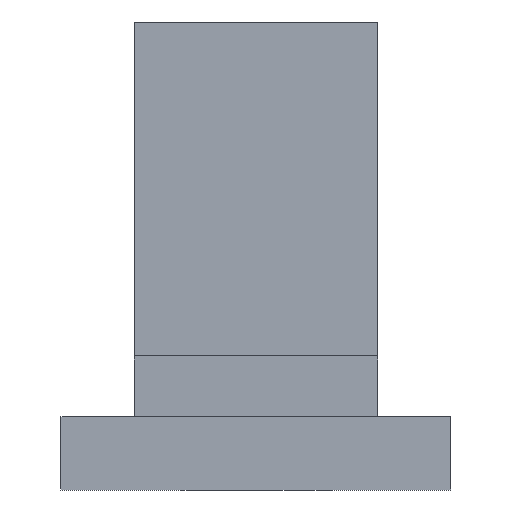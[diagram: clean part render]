
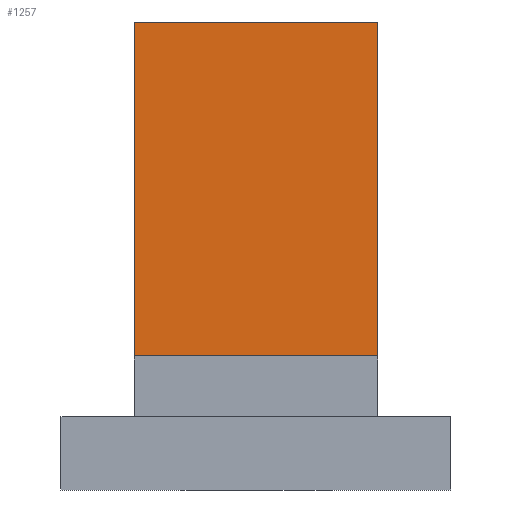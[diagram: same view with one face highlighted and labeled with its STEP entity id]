
A CAD part, front view. The second image highlights one B-rep face of the part: STEP entity #1257.
In plain terms, the highlighted planar face has unit normal (0, -1, 0).
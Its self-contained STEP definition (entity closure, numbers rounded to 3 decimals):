
#173 = PLANE('',#174);
#174 = AXIS2_PLACEMENT_3D('',#175,#176,#177);
#175 = CARTESIAN_POINT('',(5.,23.75,3.));
#176 = DIRECTION('',(1.,0.,-0.));
#177 = DIRECTION('',(0.,0.,1.));
#227 = PLANE('',#228);
#228 = AXIS2_PLACEMENT_3D('',#229,#230,#231);
#229 = CARTESIAN_POINT('',(-5.,23.75,3.));
#230 = DIRECTION('',(1.,0.,-0.));
#231 = DIRECTION('',(0.,0.,1.));
#473 = VERTEX_POINT('',#474);
#474 = CARTESIAN_POINT('',(-5.,25.5,19.2));
#488 = PLANE('',#489);
#489 = AXIS2_PLACEMENT_3D('',#490,#491,#492);
#490 = CARTESIAN_POINT('',(-5.,25.5,19.2));
#491 = DIRECTION('',(0.,0.,1.));
#492 = DIRECTION('',(1.,0.,-0.));
#500 = EDGE_CURVE('',#501,#473,#503,.T.);
#501 = VERTEX_POINT('',#502);
#502 = CARTESIAN_POINT('',(-5.,25.5,5.5));
#503 = SURFACE_CURVE('',#504,(#508,#515),.PCURVE_S1.);
#504 = LINE('',#505,#506);
#505 = CARTESIAN_POINT('',(-5.,25.5,5.5));
#506 = VECTOR('',#507,1.);
#507 = DIRECTION('',(0.,0.,1.));
#508 = PCURVE('',#227,#509);
#509 = DEFINITIONAL_REPRESENTATION('',(#510),#514);
#510 = LINE('',#511,#512);
#511 = CARTESIAN_POINT('',(2.5,-1.75));
#512 = VECTOR('',#513,1.);
#513 = DIRECTION('',(1.,0.));
#514 = ( GEOMETRIC_REPRESENTATION_CONTEXT(2) 
PARAMETRIC_REPRESENTATION_CONTEXT() REPRESENTATION_CONTEXT('2D SPACE',''
  ) );
#515 = PCURVE('',#516,#521);
#516 = PLANE('',#517);
#517 = AXIS2_PLACEMENT_3D('',#518,#519,#520);
#518 = CARTESIAN_POINT('',(-5.,25.5,5.5));
#519 = DIRECTION('',(-0.,1.,0.));
#520 = DIRECTION('',(0.,0.,1.));
#521 = DEFINITIONAL_REPRESENTATION('',(#522),#526);
#522 = LINE('',#523,#524);
#523 = CARTESIAN_POINT('',(0.,0.));
#524 = VECTOR('',#525,1.);
#525 = DIRECTION('',(1.,0.));
#526 = ( GEOMETRIC_REPRESENTATION_CONTEXT(2) 
PARAMETRIC_REPRESENTATION_CONTEXT() REPRESENTATION_CONTEXT('2D SPACE',''
  ) );
#542 = PLANE('',#543);
#543 = AXIS2_PLACEMENT_3D('',#544,#545,#546);
#544 = CARTESIAN_POINT('',(-5.,23.75,5.5));
#545 = DIRECTION('',(0.,0.,1.));
#546 = DIRECTION('',(1.,0.,-0.));
#701 = VERTEX_POINT('',#702);
#702 = CARTESIAN_POINT('',(5.,25.5,19.2));
#723 = EDGE_CURVE('',#724,#701,#726,.T.);
#724 = VERTEX_POINT('',#725);
#725 = CARTESIAN_POINT('',(5.,25.5,5.5));
#726 = SURFACE_CURVE('',#727,(#731,#738),.PCURVE_S1.);
#727 = LINE('',#728,#729);
#728 = CARTESIAN_POINT('',(5.,25.5,5.5));
#729 = VECTOR('',#730,1.);
#730 = DIRECTION('',(0.,0.,1.));
#731 = PCURVE('',#173,#732);
#732 = DEFINITIONAL_REPRESENTATION('',(#733),#737);
#733 = LINE('',#734,#735);
#734 = CARTESIAN_POINT('',(2.5,-1.75));
#735 = VECTOR('',#736,1.);
#736 = DIRECTION('',(1.,0.));
#737 = ( GEOMETRIC_REPRESENTATION_CONTEXT(2) 
PARAMETRIC_REPRESENTATION_CONTEXT() REPRESENTATION_CONTEXT('2D SPACE',''
  ) );
#738 = PCURVE('',#516,#739);
#739 = DEFINITIONAL_REPRESENTATION('',(#740),#744);
#740 = LINE('',#741,#742);
#741 = CARTESIAN_POINT('',(0.,10.));
#742 = VECTOR('',#743,1.);
#743 = DIRECTION('',(1.,0.));
#744 = ( GEOMETRIC_REPRESENTATION_CONTEXT(2) 
PARAMETRIC_REPRESENTATION_CONTEXT() REPRESENTATION_CONTEXT('2D SPACE',''
  ) );
#1123 = EDGE_CURVE('',#473,#701,#1124,.T.);
#1124 = SURFACE_CURVE('',#1125,(#1129,#1136),.PCURVE_S1.);
#1125 = LINE('',#1126,#1127);
#1126 = CARTESIAN_POINT('',(-5.,25.5,19.2));
#1127 = VECTOR('',#1128,1.);
#1128 = DIRECTION('',(1.,0.,-0.));
#1129 = PCURVE('',#488,#1130);
#1130 = DEFINITIONAL_REPRESENTATION('',(#1131),#1135);
#1131 = LINE('',#1132,#1133);
#1132 = CARTESIAN_POINT('',(0.,0.));
#1133 = VECTOR('',#1134,1.);
#1134 = DIRECTION('',(1.,0.));
#1135 = ( GEOMETRIC_REPRESENTATION_CONTEXT(2) 
PARAMETRIC_REPRESENTATION_CONTEXT() REPRESENTATION_CONTEXT('2D SPACE',''
  ) );
#1136 = PCURVE('',#516,#1137);
#1137 = DEFINITIONAL_REPRESENTATION('',(#1138),#1142);
#1138 = LINE('',#1139,#1140);
#1139 = CARTESIAN_POINT('',(13.7,0.));
#1140 = VECTOR('',#1141,1.);
#1141 = DIRECTION('',(0.,1.));
#1142 = ( GEOMETRIC_REPRESENTATION_CONTEXT(2) 
PARAMETRIC_REPRESENTATION_CONTEXT() REPRESENTATION_CONTEXT('2D SPACE',''
  ) );
#1257 = ADVANCED_FACE('',(#1258),#516,.F.);
#1258 = FACE_BOUND('',#1259,.F.);
#1259 = EDGE_LOOP('',(#1260,#1281,#1282,#1283));
#1260 = ORIENTED_EDGE('',*,*,#1261,.F.);
#1261 = EDGE_CURVE('',#501,#724,#1262,.T.);
#1262 = SURFACE_CURVE('',#1263,(#1267,#1274),.PCURVE_S1.);
#1263 = LINE('',#1264,#1265);
#1264 = CARTESIAN_POINT('',(-5.,25.5,5.5));
#1265 = VECTOR('',#1266,1.);
#1266 = DIRECTION('',(1.,0.,-0.));
#1267 = PCURVE('',#516,#1268);
#1268 = DEFINITIONAL_REPRESENTATION('',(#1269),#1273);
#1269 = LINE('',#1270,#1271);
#1270 = CARTESIAN_POINT('',(0.,0.));
#1271 = VECTOR('',#1272,1.);
#1272 = DIRECTION('',(0.,1.));
#1273 = ( GEOMETRIC_REPRESENTATION_CONTEXT(2) 
PARAMETRIC_REPRESENTATION_CONTEXT() REPRESENTATION_CONTEXT('2D SPACE',''
  ) );
#1274 = PCURVE('',#542,#1275);
#1275 = DEFINITIONAL_REPRESENTATION('',(#1276),#1280);
#1276 = LINE('',#1277,#1278);
#1277 = CARTESIAN_POINT('',(0.,1.75));
#1278 = VECTOR('',#1279,1.);
#1279 = DIRECTION('',(1.,0.));
#1280 = ( GEOMETRIC_REPRESENTATION_CONTEXT(2) 
PARAMETRIC_REPRESENTATION_CONTEXT() REPRESENTATION_CONTEXT('2D SPACE',''
  ) );
#1281 = ORIENTED_EDGE('',*,*,#500,.T.);
#1282 = ORIENTED_EDGE('',*,*,#1123,.T.);
#1283 = ORIENTED_EDGE('',*,*,#723,.F.);
